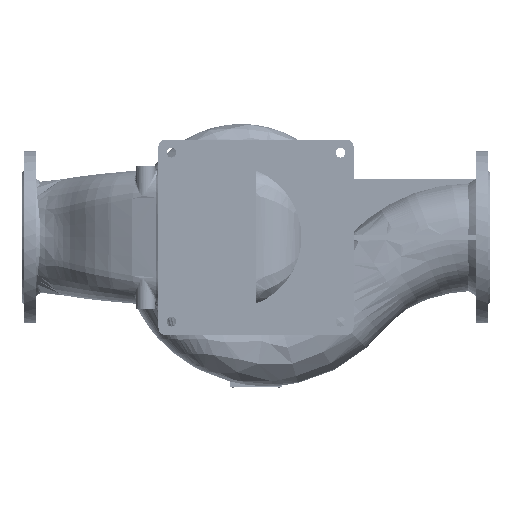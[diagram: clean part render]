
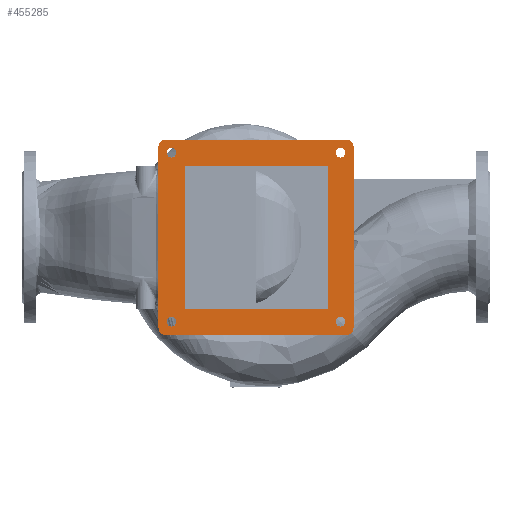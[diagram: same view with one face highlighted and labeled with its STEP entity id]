
A CAD part, front view. The second image highlights one B-rep face of the part: STEP entity #455285.
In plain terms, the highlighted planar face has unit normal (0, -1, 0).
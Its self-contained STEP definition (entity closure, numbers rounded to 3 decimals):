
#1552 = CARTESIAN_POINT ( 'NONE',  ( 277.547, 209.765, 523.339 ) ) ;
#8183 = DIRECTION ( 'NONE',  ( 0., 0., 1. ) ) ;
#12470 = EDGE_CURVE ( 'NONE', #506714, #222664, #106791, .T. ) ;
#18156 = VERTEX_POINT ( 'NONE', #214353 ) ;
#18958 = VECTOR ( 'NONE', #98036, 1000. ) ;
#20641 = DIRECTION ( 'NONE',  ( 0., 0., 1. ) ) ;
#25476 = DIRECTION ( 'NONE',  ( 0., 1., 0. ) ) ;
#27953 = EDGE_CURVE ( 'NONE', #334369, #348001, #518459, .T. ) ;
#32019 = LINE ( 'NONE', #165696, #458196 ) ;
#35964 = EDGE_LOOP ( 'NONE', ( #415951 ) ) ;
#37247 = EDGE_CURVE ( 'NONE', #107991, #293710, #32019, .T. ) ;
#38338 = DIRECTION ( 'NONE',  ( 0., -1., 0. ) ) ;
#42495 = CARTESIAN_POINT ( 'NONE',  ( 27.547, 209.765, 783.339 ) ) ;
#45231 = VERTEX_POINT ( 'NONE', #470616 ) ;
#55455 = LINE ( 'NONE', #295878, #218255 ) ;
#56964 = CARTESIAN_POINT ( 'NONE',  ( 27.547, 209.765, 773.339 ) ) ;
#57663 = CARTESIAN_POINT ( 'NONE',  ( 277.547, 209.765, 523.339 ) ) ;
#57915 = EDGE_CURVE ( 'NONE', #293710, #160882, #85933, .T. ) ;
#64001 = EDGE_CURVE ( 'NONE', #45231, #45231, #369265, .T. ) ;
#78163 = AXIS2_PLACEMENT_3D ( 'NONE', #278128, #38338, #318461 ) ;
#80462 = CIRCLE ( 'NONE', #199826, 7.5 ) ;
#82173 = DIRECTION ( 'NONE',  ( 0., 0., 1. ) ) ;
#85933 = LINE ( 'NONE', #241307, #286309 ) ;
#97371 = DIRECTION ( 'NONE',  ( 0., 0., 1. ) ) ;
#98036 = DIRECTION ( 'NONE',  ( 1., 0., 0. ) ) ;
#99302 = CIRCLE ( 'NONE', #135520, 10. ) ;
#104020 = CARTESIAN_POINT ( 'NONE',  ( 37.547, 209.765, 503.339 ) ) ;
#104373 = PLANE ( 'NONE',  #239465 ) ;
#106791 = LINE ( 'NONE', #207828, #426396 ) ;
#107991 = VERTEX_POINT ( 'NONE', #449647 ) ;
#108805 = ORIENTED_EDGE ( 'NONE', *, *, #265051, .F. ) ;
#112128 = CARTESIAN_POINT ( 'NONE',  ( 57.547, 209.765, 743.339 ) ) ;
#120719 = ORIENTED_EDGE ( 'NONE', *, *, #12470, .F. ) ;
#131854 = FACE_BOUND ( 'NONE', #316263, .T. ) ;
#135520 = AXIS2_PLACEMENT_3D ( 'NONE', #56964, #337197, #97371 ) ;
#135807 = VECTOR ( 'NONE', #244148, 1000. ) ;
#138456 = VERTEX_POINT ( 'NONE', #396222 ) ;
#144287 = DIRECTION ( 'NONE',  ( 0., 0., 1. ) ) ;
#144466 = FACE_OUTER_BOUND ( 'NONE', #351154, .T. ) ;
#147703 = ORIENTED_EDGE ( 'NONE', *, *, #463740, .T. ) ;
#149446 = ORIENTED_EDGE ( 'NONE', *, *, #289480, .T. ) ;
#155220 = AXIS2_PLACEMENT_3D ( 'NONE', #500416, #260479, #20641 ) ;
#160882 = VERTEX_POINT ( 'NONE', #502334 ) ;
#162371 = DIRECTION ( 'NONE',  ( 0., 1., 0. ) ) ;
#165696 = CARTESIAN_POINT ( 'NONE',  ( 277.547, 209.765, 743.339 ) ) ;
#170745 = CARTESIAN_POINT ( 'NONE',  ( 27.547, 209.765, 493.339 ) ) ;
#176273 = LINE ( 'NONE', #1552, #376897 ) ;
#191267 = EDGE_CURVE ( 'NONE', #138456, #138456, #80462, .T. ) ;
#193552 = ORIENTED_EDGE ( 'NONE', *, *, #27953, .F. ) ;
#194871 = ORIENTED_EDGE ( 'NONE', *, *, #496650, .T. ) ;
#199826 = AXIS2_PLACEMENT_3D ( 'NONE', #478569, #238603, #518723 ) ;
#203978 = CARTESIAN_POINT ( 'NONE',  ( 17.547, 209.765, 783.339 ) ) ;
#207611 = DIRECTION ( 'NONE',  ( 0., -1., 0. ) ) ;
#207828 = CARTESIAN_POINT ( 'NONE',  ( 17.547, 209.765, 483.339 ) ) ;
#211041 = DIRECTION ( 'NONE',  ( 0., 0., 1. ) ) ;
#214353 = CARTESIAN_POINT ( 'NONE',  ( 307.547, 209.765, 783.339 ) ) ;
#214888 = CARTESIAN_POINT ( 'NONE',  ( 37.547, 209.765, 770.839 ) ) ;
#216395 = CIRCLE ( 'NONE', #78163, 10. ) ;
#218255 = VECTOR ( 'NONE', #492105, 1000. ) ;
#222664 = VERTEX_POINT ( 'NONE', #511714 ) ;
#224061 = CARTESIAN_POINT ( 'NONE',  ( 307.547, 209.765, 483.339 ) ) ;
#224593 = VERTEX_POINT ( 'NONE', #42495 ) ;
#226329 = ORIENTED_EDGE ( 'NONE', *, *, #305001, .T. ) ;
#228815 = EDGE_CURVE ( 'NONE', #224593, #18156, #442770, .T. ) ;
#231694 = ORIENTED_EDGE ( 'NONE', *, *, #445155, .T. ) ;
#231890 = LINE ( 'NONE', #57663, #18958 ) ;
#234573 = ORIENTED_EDGE ( 'NONE', *, *, #514817, .T. ) ;
#238234 = FACE_BOUND ( 'NONE', #35964, .T. ) ;
#238603 = DIRECTION ( 'NONE',  ( 0., 1., 0. ) ) ;
#239465 = AXIS2_PLACEMENT_3D ( 'NONE', #265321, #25476, #305647 ) ;
#239594 = ORIENTED_EDGE ( 'NONE', *, *, #64001, .T. ) ;
#240678 = EDGE_LOOP ( 'NONE', ( #147703 ) ) ;
#241307 = CARTESIAN_POINT ( 'NONE',  ( 57.547, 209.765, 523.339 ) ) ;
#244148 = DIRECTION ( 'NONE',  ( 1., 0., 0. ) ) ;
#244507 = VERTEX_POINT ( 'NONE', #299806 ) ;
#244541 = EDGE_LOOP ( 'NONE', ( #267400, #251126, #411522, #108805 ) ) ;
#251011 = EDGE_LOOP ( 'NONE', ( #239594 ) ) ;
#251126 = ORIENTED_EDGE ( 'NONE', *, *, #57915, .F. ) ;
#254464 = VERTEX_POINT ( 'NONE', #421591 ) ;
#260479 = DIRECTION ( 'NONE',  ( 0., 1., 0. ) ) ;
#265051 = EDGE_CURVE ( 'NONE', #373751, #107991, #176273, .T. ) ;
#265321 = CARTESIAN_POINT ( 'NONE',  ( 167.547, 209.765, 633.339 ) ) ;
#267400 = ORIENTED_EDGE ( 'NONE', *, *, #397005, .F. ) ;
#273475 = VERTEX_POINT ( 'NONE', #214888 ) ;
#278128 = CARTESIAN_POINT ( 'NONE',  ( 307.547, 209.765, 773.339 ) ) ;
#280580 = CARTESIAN_POINT ( 'NONE',  ( 317.547, 209.765, 483.339 ) ) ;
#282930 = CIRCLE ( 'NONE', #327818, 10. ) ;
#286309 = VECTOR ( 'NONE', #402542, 1000. ) ;
#289480 = EDGE_CURVE ( 'NONE', #334369, #18156, #216395, .T. ) ;
#293065 = CARTESIAN_POINT ( 'NONE',  ( 317.547, 209.765, 493.339 ) ) ;
#293710 = VERTEX_POINT ( 'NONE', #112128 ) ;
#295878 = CARTESIAN_POINT ( 'NONE',  ( 17.547, 209.765, 483.339 ) ) ;
#299749 = AXIS2_PLACEMENT_3D ( 'NONE', #447605, #207611, #487820 ) ;
#299806 = CARTESIAN_POINT ( 'NONE',  ( 27.547, 209.765, 483.339 ) ) ;
#305001 = EDGE_CURVE ( 'NONE', #224593, #222664, #99302, .T. ) ;
#305647 = DIRECTION ( 'NONE',  ( 0., 0., 1. ) ) ;
#306680 = CIRCLE ( 'NONE', #473326, 7.5 ) ;
#316263 = EDGE_LOOP ( 'NONE', ( #194871 ) ) ;
#318461 = DIRECTION ( 'NONE',  ( 0., 0., 1. ) ) ;
#326861 = DIRECTION ( 'NONE',  ( -1., 0., 0. ) ) ;
#327818 = AXIS2_PLACEMENT_3D ( 'NONE', #170745, #451049, #211041 ) ;
#333947 = EDGE_CURVE ( 'NONE', #350970, #244507, #55455, .T. ) ;
#334369 = VERTEX_POINT ( 'NONE', #486280 ) ;
#337197 = DIRECTION ( 'NONE',  ( 0., -1., 0. ) ) ;
#341928 = CIRCLE ( 'NONE', #500966, 7.5 ) ;
#344909 = FACE_BOUND ( 'NONE', #251011, .T. ) ;
#348001 = VERTEX_POINT ( 'NONE', #293065 ) ;
#350970 = VERTEX_POINT ( 'NONE', #224061 ) ;
#351154 = EDGE_LOOP ( 'NONE', ( #226329, #120719, #231694, #385293, #234573, #193552, #149446, #418923 ) ) ;
#357459 = FACE_BOUND ( 'NONE', #244541, .T. ) ;
#369265 = CIRCLE ( 'NONE', #155220, 7.5 ) ;
#373751 = VERTEX_POINT ( 'NONE', #505807 ) ;
#376897 = VECTOR ( 'NONE', #82173, 1000. ) ;
#381789 = CARTESIAN_POINT ( 'NONE',  ( 17.547, 209.765, 493.339 ) ) ;
#384248 = DIRECTION ( 'NONE',  ( 0., 1., 0. ) ) ;
#385293 = ORIENTED_EDGE ( 'NONE', *, *, #333947, .F. ) ;
#396222 = CARTESIAN_POINT ( 'NONE',  ( 297.547, 209.765, 510.839 ) ) ;
#397005 = EDGE_CURVE ( 'NONE', #160882, #373751, #231890, .T. ) ;
#399553 = VECTOR ( 'NONE', #441740, 1000. ) ;
#402380 = CARTESIAN_POINT ( 'NONE',  ( 37.547, 209.765, 763.339 ) ) ;
#402542 = DIRECTION ( 'NONE',  ( 0., 0., -1. ) ) ;
#411522 = ORIENTED_EDGE ( 'NONE', *, *, #37247, .F. ) ;
#415951 = ORIENTED_EDGE ( 'NONE', *, *, #191267, .T. ) ;
#418923 = ORIENTED_EDGE ( 'NONE', *, *, #228815, .F. ) ;
#421591 = CARTESIAN_POINT ( 'NONE',  ( 37.547, 209.765, 510.839 ) ) ;
#426396 = VECTOR ( 'NONE', #8183, 1000. ) ;
#441740 = DIRECTION ( 'NONE',  ( 0., 0., -1. ) ) ;
#442578 = DIRECTION ( 'NONE',  ( 0., 0., 1. ) ) ;
#442770 = LINE ( 'NONE', #203978, #135807 ) ;
#445155 = EDGE_CURVE ( 'NONE', #506714, #244507, #282930, .T. ) ;
#447605 = CARTESIAN_POINT ( 'NONE',  ( 307.547, 209.765, 493.339 ) ) ;
#449647 = CARTESIAN_POINT ( 'NONE',  ( 277.547, 209.765, 743.339 ) ) ;
#451049 = DIRECTION ( 'NONE',  ( 0., -1., 0. ) ) ;
#451492 = FACE_BOUND ( 'NONE', #240678, .T. ) ;
#455257 = CIRCLE ( 'NONE', #299749, 10. ) ;
#455285 = ADVANCED_FACE ( 'NONE', ( #357459, #144466, #451492, #344909, #238234, #131854 ), #104373, .F. ) ;
#458196 = VECTOR ( 'NONE', #326861, 1000. ) ;
#463740 = EDGE_CURVE ( 'NONE', #273475, #273475, #341928, .T. ) ;
#470616 = CARTESIAN_POINT ( 'NONE',  ( 297.547, 209.765, 770.839 ) ) ;
#473326 = AXIS2_PLACEMENT_3D ( 'NONE', #104020, #384248, #144287 ) ;
#478569 = CARTESIAN_POINT ( 'NONE',  ( 297.547, 209.765, 503.339 ) ) ;
#486280 = CARTESIAN_POINT ( 'NONE',  ( 317.547, 209.765, 773.339 ) ) ;
#487820 = DIRECTION ( 'NONE',  ( 0., 0., 1. ) ) ;
#492105 = DIRECTION ( 'NONE',  ( -1., 0., 0. ) ) ;
#496650 = EDGE_CURVE ( 'NONE', #254464, #254464, #306680, .T. ) ;
#500416 = CARTESIAN_POINT ( 'NONE',  ( 297.547, 209.765, 763.339 ) ) ;
#500966 = AXIS2_PLACEMENT_3D ( 'NONE', #402380, #162371, #442578 ) ;
#502334 = CARTESIAN_POINT ( 'NONE',  ( 57.547, 209.765, 523.339 ) ) ;
#505807 = CARTESIAN_POINT ( 'NONE',  ( 277.547, 209.765, 523.339 ) ) ;
#506714 = VERTEX_POINT ( 'NONE', #381789 ) ;
#511714 = CARTESIAN_POINT ( 'NONE',  ( 17.547, 209.765, 773.339 ) ) ;
#514817 = EDGE_CURVE ( 'NONE', #350970, #348001, #455257, .T. ) ;
#518459 = LINE ( 'NONE', #280580, #399553 ) ;
#518723 = DIRECTION ( 'NONE',  ( 0., 0., 1. ) ) ;
